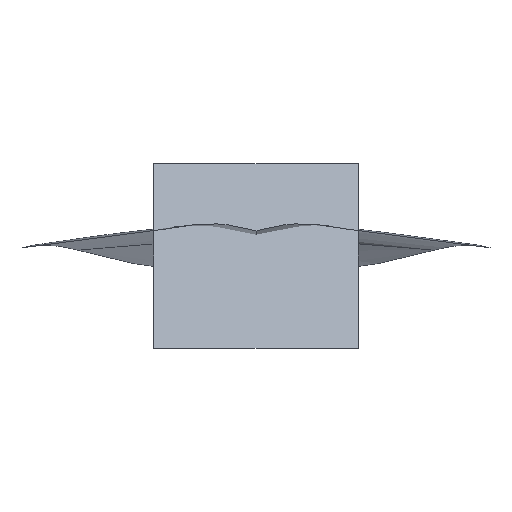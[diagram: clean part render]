
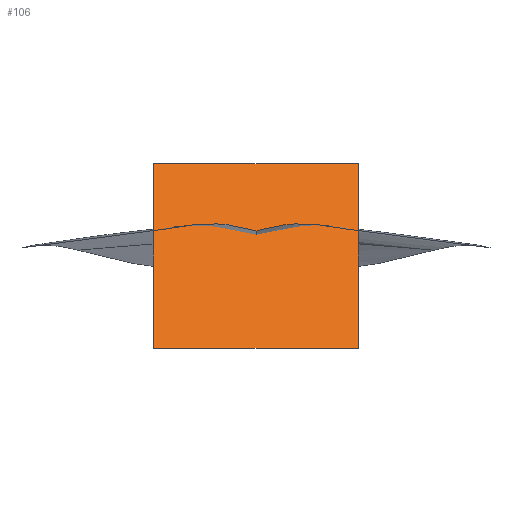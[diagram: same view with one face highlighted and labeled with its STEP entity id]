
A CAD part, left-side view. The second image highlights one B-rep face of the part: STEP entity #106.
In plain terms, the highlighted planar face has unit normal (-0.858, 0, 0.514).
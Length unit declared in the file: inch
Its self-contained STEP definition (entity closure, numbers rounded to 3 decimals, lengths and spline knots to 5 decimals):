
#67=CARTESIAN_POINT('Axis2P3D Location',(1554.12585,0.,-932.21995)) ;
#72=CARTESIAN_POINT('Line Origine',(2300.62038,37.82339,312.27866)) ;
#76=CARTESIAN_POINT('Vertex',(2321.08776,37.82339,346.40031)) ;
#78=CARTESIAN_POINT('Vertex',(2280.153,37.82339,278.15702)) ;
#81=CARTESIAN_POINT('Line Origine',(2280.153,0.,278.15702)) ;
#85=CARTESIAN_POINT('Vertex',(2280.153,-37.82339,278.15702)) ;
#88=CARTESIAN_POINT('Line Origine',(2300.62038,-37.82339,312.27866)) ;
#92=CARTESIAN_POINT('Vertex',(2321.08776,-37.82339,346.40031)) ;
#95=CARTESIAN_POINT('Line Origine',(2321.08776,0.,346.40031)) ;
#68=DIRECTION('Axis2P3D Direction',(-0.858,0.,0.514)) ;
#69=DIRECTION('Axis2P3D XDirection',(0.,-1.,0.)) ;
#73=DIRECTION('Vector Direction',(-0.514,0.,-0.858)) ;
#82=DIRECTION('Vector Direction',(0.,1.,0.)) ;
#89=DIRECTION('Vector Direction',(0.514,0.,0.858)) ;
#96=DIRECTION('Vector Direction',(0.,-1.,0.)) ;
#70=AXIS2_PLACEMENT_3D('Plane Axis2P3D',#67,#68,#69) ;
#101=ORIENTED_EDGE('',*,*,#80,.T.) ;
#102=ORIENTED_EDGE('',*,*,#87,.T.) ;
#103=ORIENTED_EDGE('',*,*,#94,.T.) ;
#104=ORIENTED_EDGE('',*,*,#99,.T.) ;
#74=VECTOR('Line Direction',#73,0.03937) ;
#83=VECTOR('Line Direction',#82,0.03937) ;
#90=VECTOR('Line Direction',#89,0.03937) ;
#97=VECTOR('Line Direction',#96,0.03937) ;
#106=ADVANCED_FACE('RUDD01_FWD',(#105),#71,.T.) ;
#80=EDGE_CURVE('',#77,#79,#75,.T.) ;
#87=EDGE_CURVE('',#79,#86,#84,.F.) ;
#94=EDGE_CURVE('',#86,#93,#91,.T.) ;
#99=EDGE_CURVE('',#93,#77,#98,.F.) ;
#100=EDGE_LOOP('',(#101,#102,#103,#104)) ;
#105=FACE_OUTER_BOUND('',#100,.T.) ;
#75=LINE('Line',#72,#74) ;
#84=LINE('Line',#81,#83) ;
#91=LINE('Line',#88,#90) ;
#98=LINE('Line',#95,#97) ;
#71=PLANE('',#70) ;
#77=VERTEX_POINT('',#76) ;
#79=VERTEX_POINT('',#78) ;
#86=VERTEX_POINT('',#85) ;
#93=VERTEX_POINT('',#92) ;
